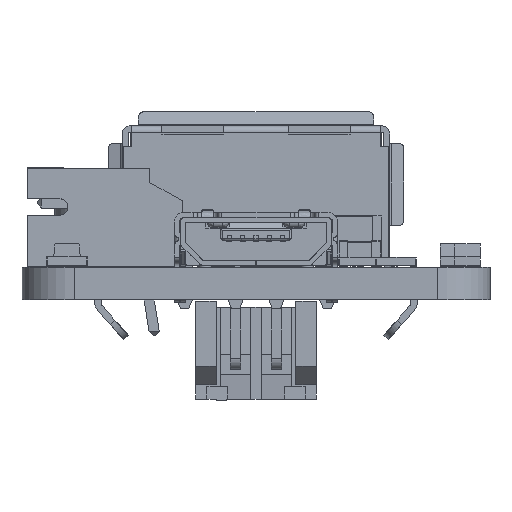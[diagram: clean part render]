
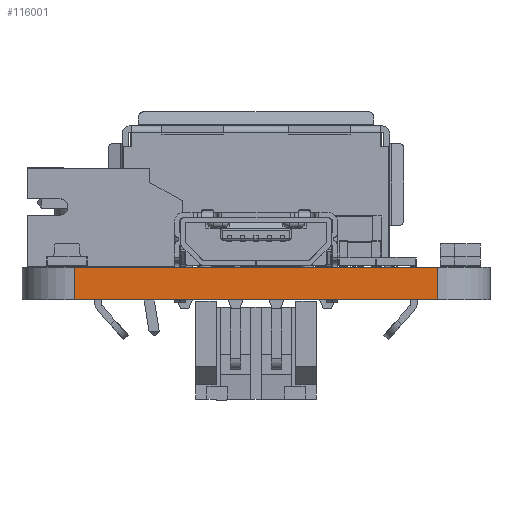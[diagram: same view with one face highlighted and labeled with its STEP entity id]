
A CAD part, left-side view. The second image highlights one B-rep face of the part: STEP entity #116001.
In plain terms, the highlighted planar face has unit normal (-1, 0, 0).
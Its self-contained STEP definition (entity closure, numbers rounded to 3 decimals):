
#112315 = PLANE('',#112316);
#112316 = AXIS2_PLACEMENT_3D('',#112317,#112318,#112319);
#112317 = CARTESIAN_POINT('',(118.1,-88.55,1.6));
#112318 = DIRECTION('',(0.,0.,1.));
#112319 = DIRECTION('',(1.,0.,-0.));
#112370 = PLANE('',#112371);
#112371 = AXIS2_PLACEMENT_3D('',#112372,#112373,#112374);
#112372 = CARTESIAN_POINT('',(118.1,-88.55,0.));
#112373 = DIRECTION('',(0.,0.,1.));
#112374 = DIRECTION('',(1.,0.,-0.));
#112479 = CYLINDRICAL_SURFACE('',#112480,2.55);
#112480 = AXIS2_PLACEMENT_3D('',#112481,#112482,#112483);
#112481 = CARTESIAN_POINT('',(102.55,-79.65,0.));
#112482 = DIRECTION('',(-0.,-0.,-1.));
#112483 = DIRECTION('',(1.,0.,-0.));
#112540 = VERTEX_POINT('',#112541);
#112541 = CARTESIAN_POINT('',(100.,-79.65,0.));
#112563 = EDGE_CURVE('',#112564,#112540,#112566,.T.);
#112564 = VERTEX_POINT('',#112565);
#112565 = CARTESIAN_POINT('',(100.,-97.45,0.));
#112566 = SURFACE_CURVE('',#112567,(#112571,#112578),.PCURVE_S1.);
#112567 = LINE('',#112568,#112569);
#112568 = CARTESIAN_POINT('',(100.,-97.45,0.));
#112569 = VECTOR('',#112570,1.);
#112570 = DIRECTION('',(0.,1.,0.));
#112571 = PCURVE('',#112370,#112572);
#112572 = DEFINITIONAL_REPRESENTATION('',(#112573),#112577);
#112573 = LINE('',#112574,#112575);
#112574 = CARTESIAN_POINT('',(-18.1,-8.9));
#112575 = VECTOR('',#112576,1.);
#112576 = DIRECTION('',(0.,1.));
#112577 = ( GEOMETRIC_REPRESENTATION_CONTEXT(2) 
PARAMETRIC_REPRESENTATION_CONTEXT() REPRESENTATION_CONTEXT('2D SPACE',''
  ) );
#112578 = PCURVE('',#112579,#112584);
#112579 = PLANE('',#112580);
#112580 = AXIS2_PLACEMENT_3D('',#112581,#112582,#112583);
#112581 = CARTESIAN_POINT('',(100.,-97.45,0.));
#112582 = DIRECTION('',(-1.,0.,0.));
#112583 = DIRECTION('',(0.,1.,0.));
#112584 = DEFINITIONAL_REPRESENTATION('',(#112585),#112589);
#112585 = LINE('',#112586,#112587);
#112586 = CARTESIAN_POINT('',(0.,0.));
#112587 = VECTOR('',#112588,1.);
#112588 = DIRECTION('',(1.,0.));
#112589 = ( GEOMETRIC_REPRESENTATION_CONTEXT(2) 
PARAMETRIC_REPRESENTATION_CONTEXT() REPRESENTATION_CONTEXT('2D SPACE',''
  ) );
#112608 = CYLINDRICAL_SURFACE('',#112609,2.55);
#112609 = AXIS2_PLACEMENT_3D('',#112610,#112611,#112612);
#112610 = CARTESIAN_POINT('',(102.55,-97.45,0.));
#112611 = DIRECTION('',(-0.,-0.,-1.));
#112612 = DIRECTION('',(1.,0.,-0.));
#114381 = VERTEX_POINT('',#114382);
#114382 = CARTESIAN_POINT('',(100.,-79.65,1.6));
#114404 = EDGE_CURVE('',#114405,#114381,#114407,.T.);
#114405 = VERTEX_POINT('',#114406);
#114406 = CARTESIAN_POINT('',(100.,-97.45,1.6));
#114407 = SURFACE_CURVE('',#114408,(#114412,#114419),.PCURVE_S1.);
#114408 = LINE('',#114409,#114410);
#114409 = CARTESIAN_POINT('',(100.,-97.45,1.6));
#114410 = VECTOR('',#114411,1.);
#114411 = DIRECTION('',(0.,1.,0.));
#114412 = PCURVE('',#112315,#114413);
#114413 = DEFINITIONAL_REPRESENTATION('',(#114414),#114418);
#114414 = LINE('',#114415,#114416);
#114415 = CARTESIAN_POINT('',(-18.1,-8.9));
#114416 = VECTOR('',#114417,1.);
#114417 = DIRECTION('',(0.,1.));
#114418 = ( GEOMETRIC_REPRESENTATION_CONTEXT(2) 
PARAMETRIC_REPRESENTATION_CONTEXT() REPRESENTATION_CONTEXT('2D SPACE',''
  ) );
#114419 = PCURVE('',#112579,#114420);
#114420 = DEFINITIONAL_REPRESENTATION('',(#114421),#114425);
#114421 = LINE('',#114422,#114423);
#114422 = CARTESIAN_POINT('',(0.,-1.6));
#114423 = VECTOR('',#114424,1.);
#114424 = DIRECTION('',(1.,0.));
#114425 = ( GEOMETRIC_REPRESENTATION_CONTEXT(2) 
PARAMETRIC_REPRESENTATION_CONTEXT() REPRESENTATION_CONTEXT('2D SPACE',''
  ) );
#115953 = EDGE_CURVE('',#112540,#114381,#115954,.T.);
#115954 = SURFACE_CURVE('',#115955,(#115959,#115966),.PCURVE_S1.);
#115955 = LINE('',#115956,#115957);
#115956 = CARTESIAN_POINT('',(100.,-79.65,0.));
#115957 = VECTOR('',#115958,1.);
#115958 = DIRECTION('',(0.,0.,1.));
#115959 = PCURVE('',#112479,#115960);
#115960 = DEFINITIONAL_REPRESENTATION('',(#115961),#115965);
#115961 = LINE('',#115962,#115963);
#115962 = CARTESIAN_POINT('',(-3.142,0.));
#115963 = VECTOR('',#115964,1.);
#115964 = DIRECTION('',(-0.,-1.));
#115965 = ( GEOMETRIC_REPRESENTATION_CONTEXT(2) 
PARAMETRIC_REPRESENTATION_CONTEXT() REPRESENTATION_CONTEXT('2D SPACE',''
  ) );
#115966 = PCURVE('',#112579,#115967);
#115967 = DEFINITIONAL_REPRESENTATION('',(#115968),#115972);
#115968 = LINE('',#115969,#115970);
#115969 = CARTESIAN_POINT('',(17.8,0.));
#115970 = VECTOR('',#115971,1.);
#115971 = DIRECTION('',(0.,-1.));
#115972 = ( GEOMETRIC_REPRESENTATION_CONTEXT(2) 
PARAMETRIC_REPRESENTATION_CONTEXT() REPRESENTATION_CONTEXT('2D SPACE',''
  ) );
#116001 = ADVANCED_FACE('',(#116002),#112579,.T.);
#116002 = FACE_BOUND('',#116003,.T.);
#116003 = EDGE_LOOP('',(#116004,#116025,#116026,#116027));
#116004 = ORIENTED_EDGE('',*,*,#116005,.T.);
#116005 = EDGE_CURVE('',#112564,#114405,#116006,.T.);
#116006 = SURFACE_CURVE('',#116007,(#116011,#116018),.PCURVE_S1.);
#116007 = LINE('',#116008,#116009);
#116008 = CARTESIAN_POINT('',(100.,-97.45,0.));
#116009 = VECTOR('',#116010,1.);
#116010 = DIRECTION('',(0.,0.,1.));
#116011 = PCURVE('',#112579,#116012);
#116012 = DEFINITIONAL_REPRESENTATION('',(#116013),#116017);
#116013 = LINE('',#116014,#116015);
#116014 = CARTESIAN_POINT('',(0.,0.));
#116015 = VECTOR('',#116016,1.);
#116016 = DIRECTION('',(0.,-1.));
#116017 = ( GEOMETRIC_REPRESENTATION_CONTEXT(2) 
PARAMETRIC_REPRESENTATION_CONTEXT() REPRESENTATION_CONTEXT('2D SPACE',''
  ) );
#116018 = PCURVE('',#112608,#116019);
#116019 = DEFINITIONAL_REPRESENTATION('',(#116020),#116024);
#116020 = LINE('',#116021,#116022);
#116021 = CARTESIAN_POINT('',(-3.142,0.));
#116022 = VECTOR('',#116023,1.);
#116023 = DIRECTION('',(-0.,-1.));
#116024 = ( GEOMETRIC_REPRESENTATION_CONTEXT(2) 
PARAMETRIC_REPRESENTATION_CONTEXT() REPRESENTATION_CONTEXT('2D SPACE',''
  ) );
#116025 = ORIENTED_EDGE('',*,*,#114404,.T.);
#116026 = ORIENTED_EDGE('',*,*,#115953,.F.);
#116027 = ORIENTED_EDGE('',*,*,#112563,.F.);
